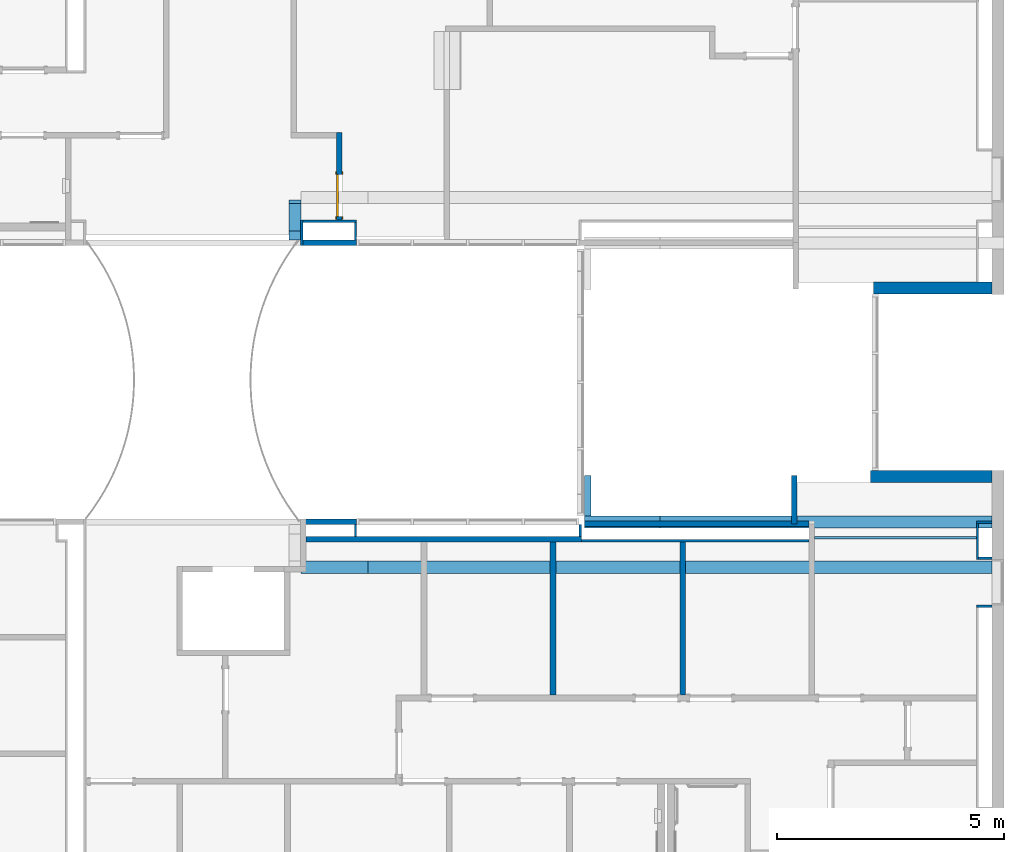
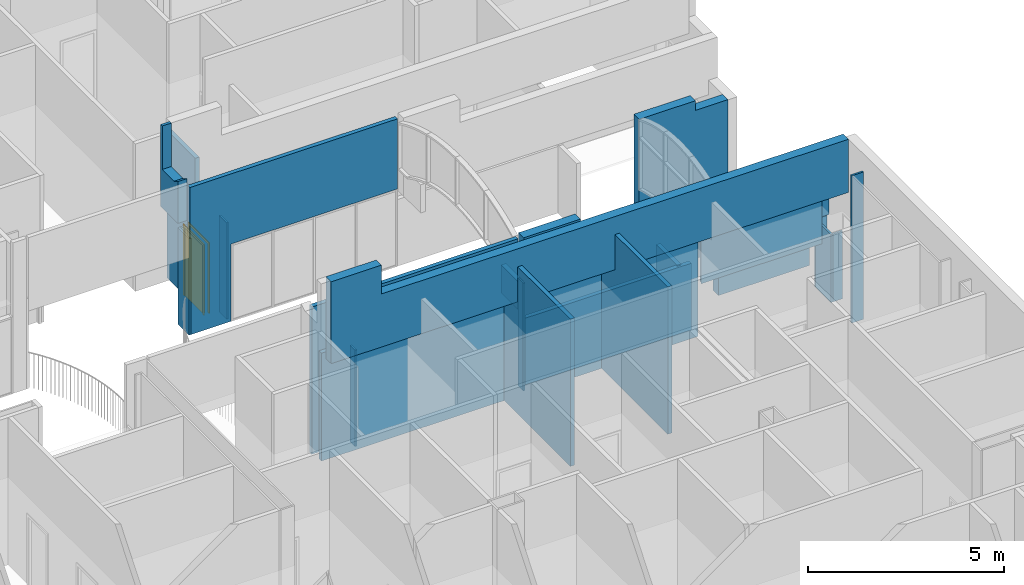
# One storey, part 18 of 47: 25 walls, 1 door, 11 openings.
"""IFC2X3 building model written with IfcOpenShell, lengths in metres."""

from ifc_helpers import new_model, entity, si_unit, converted_unit, frame, frame_2d, origin, origin_2d_with_axis, place, context, project, spatial, polyline, circle_curve, parameter, trimmed, segment, composite_curve, rectangle, outline, extrude, clip, halfspace, bounded_halfspace, source, transform, mapped, material, layer, layer_set, layer_usage, type_object, type_shapes, element, fill, save


model = new_model("IFC2X3")

# Units and contexts
model_context = context("Model", 3, precision=1e-09, world=origin())
plan_context = context("Plan", 3, precision=1e-09, world=origin())
ifc_project = project(units=[si_unit("LENGTHUNIT", "METRE"), si_unit("AREAUNIT", "SQUARE_METRE"), si_unit("VOLUMEUNIT", "CUBIC_METRE"), converted_unit("PLANEANGLEUNIT", "DEGREE", entity("IfcRatioMeasure", 0.01745329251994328), si_unit("PLANEANGLEUNIT", "RADIAN"), dimensions=[0, 0, 0, 0, 0, 0, 0]), si_unit("TIMEUNIT", "SECOND")], contexts=[model_context, plan_context])

# Site, building, storey
site_placement = place(None, origin())
site = spatial("IfcSite", under=ifc_project, at=site_placement, Name="Default", CompositionType="ELEMENT")
building_placement = place(site_placement, origin())
building = spatial("IfcBuilding", under=site, at=building_placement, CompositionType="ELEMENT")
storey_placement = place(building_placement, frame((0.0, 0.0, 4.570000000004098)))
storey = spatial("IfcBuildingStorey", under=building, at=storey_placement, Name="Second Floor", CompositionType="ELEMENT", Elevation=4.570000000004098)

# Walls
ifc_material_1 = material(Name="Metal - Stud Layer")
ifc_layer_1 = layer(ifc_material_1, 0.038)
ifc_material_2 = material(Name="Plasterboard")
ifc_layer_2 = layer(ifc_material_2, 0.016)
ifc_layer_set_1 = layer_set([ifc_layer_1, ifc_layer_2], Name="Basic Wall:Interior - Furring (38 mm Stud)")
ifc_layer_usage_1 = layer_usage(ifc_layer_set_1, "AXIS2", "POSITIVE", -0.027)
wall_1_placement = place(storey_placement, frame((-15.08297500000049, 34.70980159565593, 0.0), z_axis=(0.0, 0.0, 1.0), x_axis=(0.0, 1.0, 0.0)))
element("IfcWallStandardCase", 1, at=wall_1_placement, inside=storey, material=ifc_layer_usage_1, Name="Basic Wall:Interior - Furring (38 mm Stud)", ObjectType="Basic Wall:Interior - Furring (38 mm Stud)", context=model_context, shape_type="SweptSolid", body=[
    extrude(rectangle(XDim=0.5646371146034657, YDim=0.05400000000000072, at=frame_2d((0.2823185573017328, 0.0), x_axis=(-1.0, 0.0))), origin(), (0.0, 0.0, 1.0), 2.999999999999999),
])
ifc_layer_usage_2 = layer_usage(ifc_layer_set_1, "AXIS2", "POSITIVE", -0.027)
wall_2_placement = place(storey_placement, frame((-15.05597500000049, 35.24743871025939, 0.0)))
element("IfcWallStandardCase", 2, at=wall_2_placement, inside=storey, material=ifc_layer_usage_2, Name="Basic Wall:Interior - Furring (38 mm Stud)", ObjectType="Basic Wall:Interior - Furring (38 mm Stud)", context=model_context, shape_type="SweptSolid", body=[
    extrude(rectangle(XDim=1.183474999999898, YDim=0.05399999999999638, at=frame_2d((0.5917374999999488, 0.0), x_axis=(-1.0, 0.0))), origin(), (0.0, 0.0, 1.0), 2.999999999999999),
])
ifc_layer_usage_3 = layer_usage(ifc_layer_set_1, "AXIS2", "POSITIVE", -0.027)
wall_3_placement = place(storey_placement, frame((-13.8995000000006, 35.22043871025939, 0.0), z_axis=(0.0, 0.0, 1.0), x_axis=(0.0, -1.0, 0.0)))
element("IfcWallStandardCase", 3, at=wall_3_placement, inside=storey, material=ifc_layer_usage_3, Name="Basic Wall:Interior - Furring (38 mm Stud)", ObjectType="Basic Wall:Interior - Furring (38 mm Stud)", context=model_context, shape_type="SweptSolid", body=[
    extrude(rectangle(XDim=0.3866371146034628, YDim=0.05400000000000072, at=frame_2d((0.1933185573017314, 0.0), x_axis=(-1.0, 0.0))), origin(), (0.0, 0.0, 1.0), 2.999999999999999),
])

# Wall, openings, door
ifc_layer_3 = layer(ifc_material_2, 0.016)
ifc_layer_4 = layer(ifc_material_1, 0.092)
ifc_layer_5 = layer(ifc_material_2, 0.016)
ifc_layer_set_2 = layer_set([ifc_layer_3, ifc_layer_4, ifc_layer_5], Name="Basic Wall:Interior - Partition (92mm Stud)")
ifc_layer_usage_4 = layer_usage(ifc_layer_set_2, "AXIS2", "NEGATIVE", 0.062)
wall_4_placement = place(storey_placement, frame((-14.25800000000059, 35.27443871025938, 0.0), z_axis=(0.0, 0.0, 1.0), x_axis=(0.0, 1.0, 0.0)))
wall_4 = element("IfcWallStandardCase", 4, at=wall_4_placement, inside=storey, material=ifc_layer_usage_4, Name="Basic Wall:Interior - Partition (92mm Stud)", ObjectType="Basic Wall:Interior - Partition (92mm Stud)", context=model_context, shape_type="Clipping", body=[
    clip(extrude(rectangle(XDim=1.924000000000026, YDim=0.1240000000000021, at=frame_2d((0.9620000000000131, 0.0), x_axis=(-1.0, 0.0))), origin(), (0.0, 0.0, 1.0), 4.577999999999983), halfspace(frame((0.4894652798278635, 0.0, 4.577999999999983), z_axis=(-0.9198990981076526, 0.0, 0.3921551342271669), x_axis=(0.0, 1.0, 0.0)), False)),
])
opening_1_placement = place(wall_4_placement, frame((0.3173101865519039, 0.06200000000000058, 3.770333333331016)))
element("IfcOpeningElement", 5, at=opening_1_placement, cuts=wall_4, Name="Basic Wall:Interior - Partition (92mm Stud):2", ObjectType="Opening", context=model_context, shape_type="SweptSolid", body=[
    extrude(outline(polyline([(-0.8104833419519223, -0.1583653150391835), (0.5065089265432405, -0.1583653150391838), (0.3039744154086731, 0.3167306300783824), (-0.8104833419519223, -0.1583653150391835)])), frame((0.0, 0.0, 0.0), z_axis=(0.0, -1.0, 0.0), x_axis=(-0.3921551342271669, 0.0, -0.9198990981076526)), (0.0, 0.0, 1.0), 0.124),
])
opening_2_placement = place(wall_4_placement, frame((0.08000000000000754, -0.06200000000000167, 0.0)))
opening_2 = element("IfcOpeningElement", 6, at=opening_2_placement, cuts=wall_4, Name="M_Single-Flush:0915 x 2134mm:0915 x 2134mm:1", ObjectType="Opening", context=model_context, shape_type="SweptSolid", body=[
    extrude(rectangle(XDim=0.9149999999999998, YDim=2.134, at=frame_2d((1.067, 0.4575000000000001), x_axis=(0.0, -1.0))), frame((0.0, 0.0, 0.0), z_axis=(0.0, 1.0, 0.0), x_axis=(0.0, 0.0, 1.0)), (0.0, 0.0, 1.0), 0.124),
])
door_style = type_object("IfcDoorStyle", Name="0915 x 2134mm", ConstructionType="NOTDEFINED", OperationType="SINGLE_SWING_LEFT", ParameterTakesPrecedence=False, Sizeable=False)
shared_shape = source(origin(), model_context, "Body", "SweptSolid", [
    extrude(outline(polyline([(-0.5335, -1.123999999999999), (0.5334999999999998, -1.123999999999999), (0.5334999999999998, 1.086), (0.4574999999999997, 1.086), (0.4574999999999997, -1.048000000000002), (-0.4574999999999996, -1.048000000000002), (-0.4574999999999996, 1.086), (-0.5335, 1.086), (-0.5335, -1.123999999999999)])), frame((0.4575000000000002, 0.1489999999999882, 1.086), z_axis=(0.0, -1.0, 0.0), x_axis=(-1.0, 0.0, 0.0)), (0.0, 0.0, 1.0), 0.02499999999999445),
    extrude(outline(polyline([(-1.123999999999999, -0.5334999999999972), (1.085999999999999, -0.5334999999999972), (1.085999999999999, -0.4575000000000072), (-1.048, -0.4575000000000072), (-1.048, 0.4575000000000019), (1.085999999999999, 0.4575000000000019), (1.085999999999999, 0.5335000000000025), (-1.123999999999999, 0.5335000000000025), (-1.123999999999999, -0.5334999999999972)])), frame((0.4574999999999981, 0.0, 1.085999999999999), z_axis=(0.0, -1.0, 0.0), x_axis=(0.0, 0.0, -1.0)), (0.0, 0.0, 1.0), 0.02500000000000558),
    extrude(rectangle(XDim=0.9149999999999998, YDim=0.051, at=origin_2d_with_axis()), frame((0.4575000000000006, 0.09849999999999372, 0.0)), (0.0, 0.0, 1.0), 2.133999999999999),
])
type_shapes(door_style, [shared_shape])
door_placement = place(opening_2_placement, origin())
door = element("IfcDoor", 7, at=door_placement, inside=storey, type_object=door_style, Name="M_Single-Flush:0915 x 2134mm:0915 x 2134mm", ObjectType="0915 x 2134mm", OverallHeight=2.134, OverallWidth=0.9149999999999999, context=model_context, shape_type="MappedRepresentation", body=[
    mapped(shared_shape, transform((0.0, 0.0, 0.0), scale=1.0)),
])
fill(opening_2, door)

# Walls
ifc_layer_usage_5 = layer_usage(ifc_layer_set_1, "AXIS2", "POSITIVE", -0.027)
wall_5_placement = place(storey_placement, frame((-3.913975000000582, 28.21143871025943, 0.0), z_axis=(0.0, 0.0, 1.0), x_axis=(-1.0, 0.0, 0.0)))
element("IfcWallStandardCase", 8, at=wall_5_placement, inside=storey, material=ifc_layer_usage_5, Name="Basic Wall:Interior - Furring (38 mm Stud)", ObjectType="Basic Wall:Interior - Furring (38 mm Stud)", context=model_context, shape_type="SweptSolid", body=[
    extrude(rectangle(XDim=5.013751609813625, YDim=0.05399999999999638, at=frame_2d((2.506875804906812, 0.0), x_axis=(-1.0, 0.0))), origin(), (0.0, 0.0, 1.0), 3.35319999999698),
])
ifc_layer_usage_6 = layer_usage(ifc_layer_set_2, "AXIS2", "NEGATIVE", 0.062)
wall_6_placement = place(storey_placement, frame((-4.242000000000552, 29.64599999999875, 0.02843658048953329), z_axis=(0.0, 0.0, 1.0), x_axis=(0.0, -1.0, 0.0)))
element("IfcWallStandardCase", 9, at=wall_6_placement, inside=storey, material=ifc_layer_usage_6, Name="Basic Wall:Interior - Partition (92mm Stud)", ObjectType="Basic Wall:Interior - Partition (92mm Stud)", context=model_context, shape_type="SweptSolid", body=[
    extrude(rectangle(XDim=1.063561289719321, YDim=0.124, at=frame_2d((0.5317806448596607, 0.0), x_axis=(-1.0, 0.0))), origin(), (0.0, 0.0, 1.0), 2.077003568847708),
])

# Wall, opening
ifc_layer_usage_7 = layer_usage(ifc_layer_set_2, "AXIS2", "NEGATIVE", 0.062)
wall_7_placement = place(storey_placement, frame((-6.691975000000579, 28.18443871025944, 0.0), z_axis=(0.0, 0.0, 1.0), x_axis=(0.0, -1.0, 0.0)))
wall_7 = element("IfcWallStandardCase", 10, at=wall_7_placement, inside=storey, material=ifc_layer_usage_7, Name="Basic Wall:Interior - Partition (92mm Stud)", ObjectType="Basic Wall:Interior - Partition (92mm Stud)", context=model_context, shape_type="Clipping", body=[
    clip(extrude(rectangle(XDim=3.3759999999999, YDim=0.124, at=frame_2d((1.68799999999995, 0.0), x_axis=(-1.0, 0.0))), origin(), (0.0, 0.0, 1.0), 4.577999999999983), halfspace(frame((0.5578427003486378, 0.0, 4.577999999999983), z_axis=(-0.8950082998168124, 0.0, 0.4460494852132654), x_axis=(0.0, 1.0, 0.0)), False)),
])
opening_3_placement = place(wall_7_placement, frame((0.3628951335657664, 0.06200000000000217, 3.79566666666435)))
element("IfcOpeningElement", 11, at=opening_3_placement, cuts=wall_7, Name="Basic Wall:Interior - Partition (92mm Stud):2", ObjectType="Opening", context=model_context, shape_type="SweptSolid", body=[
    extrude(outline(polyline([(-0.787151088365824, -0.1744796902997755), (0.5240099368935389, -0.1744796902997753), (0.2631411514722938, 0.3489593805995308), (-0.787151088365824, -0.1744796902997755)])), frame((0.0, 0.0, 0.0), z_axis=(0.0, -1.0, 0.0), x_axis=(-0.4460494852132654, 0.0, -0.8950082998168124)), (0.0, 0.0, 1.0), 0.124),
])

ifc_layer_usage_8 = layer_usage(ifc_layer_set_2, "AXIS2", "NEGATIVE", 0.062)
wall_8_placement = place(storey_placement, frame((-9.551975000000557, 28.18443871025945, 0.0), z_axis=(0.0, 0.0, 1.0), x_axis=(0.0, -1.0, 0.0)))
wall_8 = element("IfcWallStandardCase", 12, at=wall_8_placement, inside=storey, material=ifc_layer_usage_8, Name="Basic Wall:Interior - Partition (92mm Stud)", ObjectType="Basic Wall:Interior - Partition (92mm Stud)", context=model_context, shape_type="Clipping", body=[
    clip(extrude(rectangle(XDim=3.3759999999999, YDim=0.124, at=frame_2d((1.68799999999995, 0.0), x_axis=(-1.0, 0.0))), origin(), (0.0, 0.0, 1.0), 4.577999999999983), halfspace(frame((0.5578427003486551, 0.0, 4.577999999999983), z_axis=(-0.8902465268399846, 0.0, 0.4554790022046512), x_axis=(0.0, 1.0, 0.0)), False)),
])
opening_4_placement = place(wall_8_placement, frame((0.3512284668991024, 0.06200000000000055, 3.770333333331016)))
element("IfcOpeningElement", 13, at=opening_4_placement, cuts=wall_8, Name="Basic Wall:Interior - Partition (92mm Stud):2", ObjectType="Opening", context=model_context, shape_type="SweptSolid", body=[
    extrude(outline(polyline([(-0.8131308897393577, -0.1839376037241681), (0.5477281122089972, -0.1839376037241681), (0.2654027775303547, 0.3678752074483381), (-0.8131308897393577, -0.1839376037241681)])), frame((0.0, 0.0, 0.0), z_axis=(0.0, -1.0, 0.0), x_axis=(-0.4554790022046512, 0.0, -0.8902465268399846)), (0.0, 0.0, 1.0), 0.124),
])

# Wall
ifc_layer_usage_9 = layer_usage(ifc_layer_set_1, "AXIS2", "POSITIVE", -0.027)
wall_9_placement = place(storey_placement, frame((-13.8995000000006, 28.56619840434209, 0.0), z_axis=(0.0, 0.0, 1.0), x_axis=(0.0, -1.0, 0.0)))
element("IfcWallStandardCase", 14, at=wall_9_placement, inside=storey, material=ifc_layer_usage_9, Name="Basic Wall:Interior - Furring (38 mm Stud)", ObjectType="Basic Wall:Interior - Furring (38 mm Stud)", context=model_context, shape_type="SweptSolid", body=[
    extrude(rectangle(XDim=0.25775969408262, YDim=0.05400000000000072, at=frame_2d((0.12887984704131, 0.0), x_axis=(-1.0, 0.0))), origin(), (0.0, 0.0, 1.0), 2.999999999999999),
])

# Wall, opening
ifc_layer_usage_10 = layer_usage(ifc_layer_set_2, "AXIS2", "NEGATIVE", 0.062)
wall_10_placement = place(storey_placement, frame((-8.981726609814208, 34.7718015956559, 0.0), z_axis=(0.0, 0.0, 1.0), x_axis=(-1.0, 0.0, 0.0)))
wall_10 = element("IfcWallStandardCase", 15, at=wall_10_placement, inside=storey, material=ifc_layer_usage_10, Name="Basic Wall:Interior - Partition (92mm Stud)", ObjectType="Basic Wall:Interior - Partition (92mm Stud)", context=model_context, shape_type="SweptSolid", body=[
    extrude(rectangle(XDim=6.101248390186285, YDim=0.1239999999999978, at=frame_2d((3.050624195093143, 0.0), x_axis=(-1.0, 0.0))), origin(), (0.0, 0.0, 1.0), 4.577999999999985),
])
opening_5_placement = place(wall_10_placement, origin())
element("IfcOpeningElement", 16, at=opening_5_placement, cuts=wall_10, ObjectType="Opening", context=model_context, shape_type="SweptSolid", body=[
    extrude(rectangle(XDim=2.4, YDim=4.89077339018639, at=origin_2d_with_axis()), frame((2.445386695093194, -0.2144000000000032, 1.199999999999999), z_axis=(0.0, 1.0, 0.0), x_axis=(0.0, 0.0, 1.0)), (0.0, 0.0, 1.0), 0.4288000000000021),
])

ifc_material_3 = material(Name="Insulation - Insulated Panel")
ifc_layer_6 = layer(ifc_material_3, 0.042)
ifc_material_4 = material(Name="Metal - Firring")
ifc_layer_7 = layer(ifc_material_4, 0.038)
ifc_material_5 = material(Name="Wood - Sheathing - plywood")
ifc_layer_8 = layer(ifc_material_5, 0.019)
ifc_layer_9 = layer(ifc_material_1, 0.152)
ifc_layer_10 = layer(ifc_material_2, 0.016)
ifc_layer_set_3 = layer_set([ifc_layer_6, ifc_layer_7, ifc_layer_8, ifc_layer_9, ifc_layer_10], Name="Basic Wall:Exterior - Insul Panel on Mtl. Stud")
ifc_layer_usage_11 = layer_usage(ifc_layer_set_3, "AXIS2", "POSITIVE", -0.1335)
wall_11_placement = place(storey_placement, frame((0.1129999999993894, 29.62649999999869, 0.0), z_axis=(0.0, 0.0, 1.0), x_axis=(-1.0, 0.0, 0.0)))
wall_11 = element("IfcWallStandardCase", 17, at=wall_11_placement, inside=storey, material=ifc_layer_usage_11, Name="Basic Wall:Exterior - Insul Panel on Mtl. Stud", ObjectType="Basic Wall:Exterior - Insul Panel on Mtl. Stud", context=model_context, shape_type="Clipping", body=[
    clip(extrude(rectangle(XDim=2.672999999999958, YDim=0.267, at=frame_2d((1.336499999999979, 0.0), x_axis=(-1.0, 0.0))), origin(), (0.0, 0.0, 1.0), 2.940000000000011), halfspace(frame((0.9479201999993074, 0.0, 2.940000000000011), z_axis=(-0.2673175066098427, 0.0, 0.9636085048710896), x_axis=(0.0, 1.0, 0.0)), False)),
])
opening_6_placement = place(wall_11_placement, frame((0.5874467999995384, 0.1335000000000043, 2.740000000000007)))
element("IfcOpeningElement", 18, at=opening_6_placement, cuts=wall_11, Name="Basic Wall:Exterior - Insul Panel on Mtl. Stud:2", ObjectType="Opening", context=model_context, shape_type="SweptSolid", body=[
    extrude(outline(polyline([(-0.4008187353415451, 0.09636085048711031), (-0.3206234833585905, -0.1927217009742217), (0.7214422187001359, 0.0963608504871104), (-0.4008187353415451, 0.09636085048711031)])), frame((0.0, 0.0, 0.0), z_axis=(0.0, 1.0, 0.0), x_axis=(-0.9636085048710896, 0.0, -0.2673175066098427)), (0.0, 0.0, -1.0), 0.267),
])

# Wall
ifc_layer_usage_12 = layer_usage(ifc_layer_set_2, "AXIS2", "NEGATIVE", 0.062)
wall_12_placement = place(storey_placement, frame((-8.85772660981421, 28.58243871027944, 0.0)))
element("IfcWallStandardCase", 19, at=wall_12_placement, inside=storey, material=ifc_layer_usage_12, Name="Basic Wall:Interior - Partition (92mm Stud)", ObjectType="Basic Wall:Interior - Partition (92mm Stud)", context=model_context, shape_type="SweptSolid", body=[
    extrude(rectangle(XDim=4.943751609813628, YDim=0.1240000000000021, at=frame_2d((2.471875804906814, 0.0), x_axis=(-1.0, 0.0))), origin(), (0.0, 0.0, 1.0), 2.071499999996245),
])

# Wall, opening
ifc_layer_usage_13 = layer_usage(ifc_layer_set_3, "AXIS2", "POSITIVE", -0.1335)
wall_13_placement = place(storey_placement, frame((-15.23000000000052, 34.83380159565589, 3.486499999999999), z_axis=(0.0, 0.0, 1.0), x_axis=(0.0, 1.0, 0.0)))
wall_13 = element("IfcWallStandardCase", 20, at=wall_13_placement, inside=storey, material=ifc_layer_usage_13, Name="Basic Wall:Exterior - Insul Panel on Mtl. Stud", ObjectType="Basic Wall:Exterior - Insul Panel on Mtl. Stud", context=model_context, shape_type="SweptSolid", body=[
    extrude(rectangle(XDim=0.8836885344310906, YDim=0.267, at=frame_2d((0.4418442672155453, 0.0), x_axis=(-1.0, 0.0))), origin(), (0.0, 0.0, 1.0), 2.543499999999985),
])
opening_7_placement = place(wall_13_placement, origin())
element("IfcOpeningElement", 21, at=opening_7_placement, cuts=wall_13, ObjectType="Opening", context=model_context, shape_type="SweptSolid", body=[
    extrude(outline(composite_curve([segment(polyline([(-3.935840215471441, 0.4658794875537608), (-3.935840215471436, -0.9317589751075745)]), True, "CONTINUOUS"), segment(trimmed(circle_curve(frame_2d((-0.0006862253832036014, 6.416606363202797), x_axis=(-1.0, 0.0)), 8.33570093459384), [parameter(61.8303182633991)], [parameter(118.1696817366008)], True, "PARAMETER"), True, "CONTINUOUS"), segment(polyline([(3.934467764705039, -0.9317589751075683), (3.934467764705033, 0.4658794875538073)]), True, "CONTINUOUS"), segment(polyline([(3.934467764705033, 0.4658794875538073), (3.336313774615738, 0.4658794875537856)]), True, "CONTINUOUS"), segment(trimmed(circle_curve(frame_2d((0.001372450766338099, 6.383921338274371), x_axis=(-1.0, 0.0)), 6.793015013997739), [parameter(60.59782404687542)], [parameter(119.4021759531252)], True, "PARAMETER"), False, "CONTINUOUS"), segment(polyline([(-3.333568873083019, 0.4658794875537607), (-3.935840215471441, 0.4658794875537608)]), True, "CONTINUOUS")], self_intersect=False)), frame((-3.139237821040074, -0.2859, 1.659379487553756), z_axis=(0.0, -1.0, 0.0), x_axis=(-1.0, 0.0, 0.0)), (0.0, 0.0, -1.0), 0.5718),
])

ifc_layer_usage_14 = layer_usage(ifc_layer_set_3, "AXIS2", "POSITIVE", -0.1335)
wall_14_placement = place(storey_placement, frame((0.11299999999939, 28.6264999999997, 2.191499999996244), z_axis=(0.0, 0.0, 1.0), x_axis=(-1.0, 0.0, 0.0)))
wall_14 = element("IfcWallStandardCase", 22, at=wall_14_placement, inside=storey, material=ifc_layer_usage_14, Name="Basic Wall:Exterior - Insul Panel on Mtl. Stud", ObjectType="Basic Wall:Exterior - Insul Panel on Mtl. Stud", context=model_context, shape_type="Clipping", body=[
    clip(clip(extrude(rectangle(XDim=8.97072660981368, YDim=0.2669999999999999, at=frame_2d((4.48536330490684, 0.0), x_axis=(-1.0, 0.0))), origin(), (0.0, 0.0, 1.0), 2.414977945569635), halfspace(frame((7.309241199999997, -0.1335, 2.414977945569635), z_axis=(2.316904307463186e-06, 0.0, 1.0), x_axis=(0.0, 1.0, 0.0)), False)), halfspace(frame((7.309241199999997, 0.0, 2.414977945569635), z_axis=(-0.09602112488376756, 0.0, 0.9953792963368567), x_axis=(0.0, 1.0, 0.0)), False)),
])
opening_8_placement = place(wall_14_placement, frame((4.828327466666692, 0.1334999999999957, 1.936325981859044)))
element("IfcOpeningElement", 23, at=opening_8_placement, cuts=wall_14, Name="Basic Wall:Exterior - Insul Panel on Mtl. Stud:2", ObjectType="Opening", context=model_context, shape_type="SweptSolid", body=[
    extrude(outline(polyline([(-2.515410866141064, -0.2382201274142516), (4.961880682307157, -0.2382201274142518), (-2.446469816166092, 0.4764402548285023), (-2.515410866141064, -0.2382201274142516)])), frame((0.0, 0.0, 0.0), z_axis=(0.0, -1.0, 0.0), x_axis=(-0.9953792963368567, 0.0, -0.09602112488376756)), (0.0, 0.0, 1.0), 0.267),
])

ifc_layer_usage_15 = layer_usage(ifc_layer_set_2, "AXIS2", "POSITIVE", -0.062)
wall_15_placement = place(storey_placement, frame((-8.981726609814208, 28.6281984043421, 0.0), z_axis=(0.0, 0.0, 1.0), x_axis=(-1.0, 0.0, 0.0)))
wall_15 = element("IfcWallStandardCase", 24, at=wall_15_placement, inside=storey, material=ifc_layer_usage_15, Name="Basic Wall:Interior - Partition (92mm Stud)", ObjectType="Basic Wall:Interior - Partition (92mm Stud)", context=model_context, shape_type="SweptSolid", body=[
    extrude(rectangle(XDim=6.066248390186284, YDim=0.1239999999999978, at=frame_2d((3.033124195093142, 0.0), x_axis=(-1.0, 0.0))), origin(), (0.0, 0.0, 1.0), 4.577999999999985),
])
opening_9_placement = place(wall_15_placement, origin())
element("IfcOpeningElement", 25, at=opening_9_placement, cuts=wall_15, ObjectType="Opening", context=model_context, shape_type="SweptSolid", body=[
    extrude(rectangle(XDim=2.4, YDim=4.890773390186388, at=origin_2d_with_axis()), frame((2.445386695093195, -0.2144000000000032, 1.199999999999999), z_axis=(0.0, 1.0, 0.0), x_axis=(0.0, 0.0, 1.0)), (0.0, 0.0, 1.0), 0.4288000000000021),
])

ifc_layer_usage_16 = layer_usage(ifc_layer_set_3, "AXIS2", "POSITIVE", -0.1335)
wall_16_placement = place(storey_placement, frame((0.1129999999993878, 27.62659600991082, 3.486499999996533), z_axis=(0.0, 0.0, 1.0), x_axis=(-1.0, 0.0, 0.0)))
wall_16 = element("IfcWallStandardCase", 26, at=wall_16_placement, inside=storey, material=ifc_layer_usage_16, Name="Basic Wall:Exterior - Insul Panel on Mtl. Stud", ObjectType="Basic Wall:Exterior - Insul Panel on Mtl. Stud", context=model_context, shape_type="Clipping", body=[
    clip(extrude(rectangle(XDim=15.20949999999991, YDim=0.267, at=frame_2d((7.604749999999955, 0.0), x_axis=(-1.0, 0.0))), origin(), (0.0, 0.0, 1.0), 2.544328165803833), halfspace(frame((13.73299999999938, 0.0, 2.544328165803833), z_axis=(-0.06432603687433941, 0.0, 0.9979289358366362), x_axis=(0.0, 1.0, 0.0)), False)),
])
opening_10_placement = place(wall_16_placement, frame((9.11083333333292, 0.1335000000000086, 1.94844272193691)))
element("IfcOpeningElement", 27, at=opening_10_placement, cuts=wall_16, Name="Basic Wall:Exterior - Insul Panel on Mtl. Stud:2", ObjectType="Opening", context=model_context, shape_type="SweptSolid", body=[
    extrude(outline(polyline([(-4.650924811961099, -0.2973256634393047), (9.244353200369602, -0.2973256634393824), (-4.5934283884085, 0.5946513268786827), (-4.650924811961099, -0.2973256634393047)])), frame((0.0, 0.0, 0.0), z_axis=(0.0, -1.0, 0.0), x_axis=(-0.9979289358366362, 0.0, -0.06432603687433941)), (0.0, 0.0, 1.0), 0.267),
])

# Wall
ifc_layer_usage_17 = layer_usage(ifc_layer_set_3, "AXIS2", "NEGATIVE", 0.1335)
wall_17_placement = place(storey_placement, frame((-8.84822660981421, 29.64599999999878, 2.1915), z_axis=(0.0, 0.0, 1.0), x_axis=(0.0, -1.0, 0.0)))
element("IfcWallStandardCase", 28, at=wall_17_placement, inside=storey, material=ifc_layer_usage_17, Name="Basic Wall:Exterior - Insul Panel on Mtl. Stud", ObjectType="Basic Wall:Exterior - Insul Panel on Mtl. Stud", context=model_context, shape_type="Clipping", body=[
    clip(extrude(rectangle(XDim=0.8859999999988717, YDim=0.2669999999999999, at=frame_2d((0.4429999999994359, 0.0), x_axis=(-1.0, 0.0))), origin(), (0.0, 0.0, 1.0), 0.8785000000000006), bounded_halfspace(frame((0.0, -0.009500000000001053, 0.0), z_axis=(0.0, 1.0, 0.0), x_axis=(-1.0, 0.0, 0.0)), True, frame((0.0, -0.009500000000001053, 0.0), z_axis=(0.0, 1.0, 0.0), x_axis=(-1.0, 0.0, 0.0)), polyline([(0.0, 0.0), (0.0, 0.8785000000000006), (-0.3832085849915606, 0.8785000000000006), (-0.8759999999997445, 0.8785000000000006), (-0.8859999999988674, 0.8785000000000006), (-0.8859999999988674, 0.0), (0.0, 0.0)]))),
])

# Wall, opening
ifc_layer_usage_18 = layer_usage(ifc_layer_set_3, "AXIS2", "NEGATIVE", 0.1335)
wall_18_placement = place(storey_placement, frame((0.1129999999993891, 33.77349999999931, 0.0), z_axis=(0.0, 0.0, 1.0), x_axis=(-1.0, 0.0, 0.0)))
wall_18 = element("IfcWallStandardCase", 29, at=wall_18_placement, inside=storey, material=ifc_layer_usage_18, Name="Basic Wall:Exterior - Insul Panel on Mtl. Stud", ObjectType="Basic Wall:Exterior - Insul Panel on Mtl. Stud", context=model_context, shape_type="Clipping", body=[
    clip(extrude(rectangle(XDim=2.610999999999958, YDim=0.267, at=frame_2d((1.305499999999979, 0.0), x_axis=(-1.0, 0.0))), origin(), (0.0, 0.0, 1.0), 2.940000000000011), halfspace(frame((0.9529201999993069, 0.0, 2.940000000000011), z_axis=(-0.2661745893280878, 0.0, 0.963924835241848), x_axis=(0.0, 1.0, 0.0)), False)),
])
opening_11_placement = place(wall_18_placement, frame((0.5907801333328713, 0.1335, 2.74000000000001)))
element("IfcOpeningElement", 30, at=opening_11_placement, cuts=wall_18, Name="Basic Wall:Exterior - Insul Panel on Mtl. Stud:2", ObjectType="Opening", context=model_context, shape_type="SweptSolid", body=[
    extrude(outline(polyline([(-0.4023107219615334, -0.09639248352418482), (0.7247690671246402, -0.09639248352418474), (-0.322458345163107, 0.1927849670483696), (-0.4023107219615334, -0.09639248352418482)])), frame((0.0, 0.0, 0.0), z_axis=(0.0, -1.0, 0.0), x_axis=(-0.963924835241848, 0.0, -0.2661745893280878)), (0.0, 0.0, 1.0), 0.267),
])

# Walls
ifc_layer_usage_19 = layer_usage(ifc_layer_set_1, "AXIS2", "NEGATIVE", 0.027)
wall_19_placement = place(storey_placement, frame((0.1129999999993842, 26.76743871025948, 0.0), z_axis=(0.0, 0.0, 1.0), x_axis=(-1.0, 0.0, 0.0)))
element("IfcWallStandardCase", 31, at=wall_19_placement, inside=storey, material=ifc_layer_usage_19, Name="Basic Wall:Interior - Furring (38 mm Stud)", ObjectType="Basic Wall:Interior - Furring (38 mm Stud)", context=model_context, shape_type="SweptSolid", body=[
    extrude(rectangle(XDim=0.3429999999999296, YDim=0.05399999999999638, at=frame_2d((0.1714999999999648, 0.0), x_axis=(-1.0, 0.0))), origin(), (0.0, 0.0, 1.0), 4.577999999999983),
])
ifc_layer_usage_20 = layer_usage(ifc_layer_set_1, "AXIS2", "NEGATIVE", 0.027)
wall_20_placement = place(storey_placement, frame((0.1129999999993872, 28.61743871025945, 0.0), z_axis=(0.0, 0.0, 1.0), x_axis=(-1.0, 0.0, 0.0)))
element("IfcWallStandardCase", 32, at=wall_20_placement, inside=storey, material=ifc_layer_usage_20, Name="Basic Wall:Interior - Furring (38 mm Stud)", ObjectType="Basic Wall:Interior - Furring (38 mm Stud)", context=model_context, shape_type="SweptSolid", body=[
    extrude(rectangle(XDim=0.344, YDim=0.05399999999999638, at=frame_2d((0.172, 0.0), x_axis=(-1.0, 0.0))), origin(), (0.0, 0.0, 1.0), 2.1054),
])
ifc_layer_usage_21 = layer_usage(ifc_layer_set_1, "AXIS2", "NEGATIVE", 0.027)
wall_21_placement = place(storey_placement, frame((-0.2040000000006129, 28.59043871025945, 0.0), z_axis=(0.0, 0.0, 1.0), x_axis=(0.0, -1.0, 0.0)))
element("IfcWallStandardCase", 33, at=wall_21_placement, inside=storey, material=ifc_layer_usage_21, Name="Basic Wall:Interior - Furring (38 mm Stud)", ObjectType="Basic Wall:Interior - Furring (38 mm Stud)", context=model_context, shape_type="SweptSolid", body=[
    extrude(rectangle(XDim=0.7959999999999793, YDim=0.05400000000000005, at=frame_2d((0.3979999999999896, 0.0), x_axis=(-1.0, 0.0))), origin(), (0.0, 0.0, 1.0), 2.1054),
])
ifc_layer_usage_22 = layer_usage(ifc_layer_set_1, "AXIS2", "NEGATIVE", 0.027)
wall_22_placement = place(storey_placement, frame((-0.1770000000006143, 27.82143871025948, 0.0)))
element("IfcWallStandardCase", 34, at=wall_22_placement, inside=storey, material=ifc_layer_usage_22, Name="Basic Wall:Interior - Furring (38 mm Stud)", ObjectType="Basic Wall:Interior - Furring (38 mm Stud)", context=model_context, shape_type="SweptSolid", body=[
    extrude(rectangle(XDim=0.2900000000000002, YDim=0.05399999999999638, at=frame_2d((0.1450000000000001, 0.0), x_axis=(-1.0, 0.0))), origin(), (0.0, 0.0, 1.0), 2.1054),
])
ifc_layer_usage_23 = layer_usage(ifc_layer_set_1, "AXIS2", "NEGATIVE", 0.027)
wall_23_placement = place(storey_placement, frame((-3.789975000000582, 28.27649999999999, 1.55)))
element("IfcWallStandardCase", 35, at=wall_23_placement, inside=storey, material=ifc_layer_usage_23, Name="Basic Wall:Interior - Furring (38 mm Stud)", ObjectType="Basic Wall:Interior - Furring (38 mm Stud)", context=model_context, shape_type="Clipping", body=[
    clip(clip(extrude(rectangle(XDim=3.558974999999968, YDim=0.05399999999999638, at=frame_2d((1.779487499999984, 0.0), x_axis=(-1.0, 0.0))), origin(), (0.0, 0.0, 1.0), 1.816499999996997), bounded_halfspace(frame((3.558974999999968, -0.01500000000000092, 0.05700000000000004), z_axis=(0.0, 0.0, 1.0), x_axis=(0.0, -1.0, 0.0)), True, frame((3.558974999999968, -0.01500000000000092, 0.05700000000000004), z_axis=(0.0, 0.0, 1.0), x_axis=(0.0, -1.0, 0.0)), polyline([(0.0, 0.0), (-0.04199999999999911, 0.0), (-0.04199999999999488, -3.558974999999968), (0.0, -3.558974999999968), (0.0, 0.0)]))), bounded_halfspace(frame((0.0, -0.01499999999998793, 0.05700000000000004), z_axis=(0.0, -1.0, 0.0), x_axis=(0.0, 0.0, -1.0)), True, frame((0.0, -0.01499999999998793, 0.05700000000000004), z_axis=(0.0, -1.0, 0.0), x_axis=(0.0, 0.0, -1.0)), polyline([(0.0, 0.0), (0.05700000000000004, 0.0), (0.05700000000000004, 3.558974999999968), (0.0, 3.558974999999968), (0.0, 0.0)]))),
])
ifc_layer_usage_24 = layer_usage(ifc_layer_set_2, "AXIS2", "NEGATIVE", 0.062)
wall_24_placement = place(storey_placement, frame((-8.927726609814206, 28.24643871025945, 0.0), z_axis=(0.0, 0.0, 1.0), x_axis=(-1.0, 0.0, 0.0)))
element("IfcWallStandardCase", 36, at=wall_24_placement, inside=storey, material=ifc_layer_usage_24, Name="Basic Wall:Interior - Partition (92mm Stud)", ObjectType="Basic Wall:Interior - Partition (92mm Stud)", context=model_context, shape_type="SweptSolid", body=[
    extrude(rectangle(XDim=6.058248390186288, YDim=0.1239999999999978, at=frame_2d((3.029124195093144, 0.0), x_axis=(-1.0, 0.0))), origin(), (0.0, 0.0, 1.0), 3.35319999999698),
])
ifc_layer_usage_25 = layer_usage(ifc_layer_set_1, "AXIS2", "NEGATIVE", 0.027)
wall_25_placement = place(storey_placement, frame((-8.954726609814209, 28.5661984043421, 0.0), z_axis=(0.0, 0.0, 1.0), x_axis=(0.0, -1.0, 0.0)))
element("IfcWallStandardCase", 37, at=wall_25_placement, inside=storey, material=ifc_layer_usage_25, Name="Basic Wall:Interior - Furring (38 mm Stud)", ObjectType="Basic Wall:Interior - Furring (38 mm Stud)", context=model_context, shape_type="SweptSolid", body=[
    extrude(rectangle(XDim=0.2577596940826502, YDim=0.05400000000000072, at=frame_2d((0.1288798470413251, 0.0), x_axis=(-1.0, 0.0))), origin(), (0.0, 0.0, 1.0), 3.35319999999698),
])

save(model, "model.ifc")
